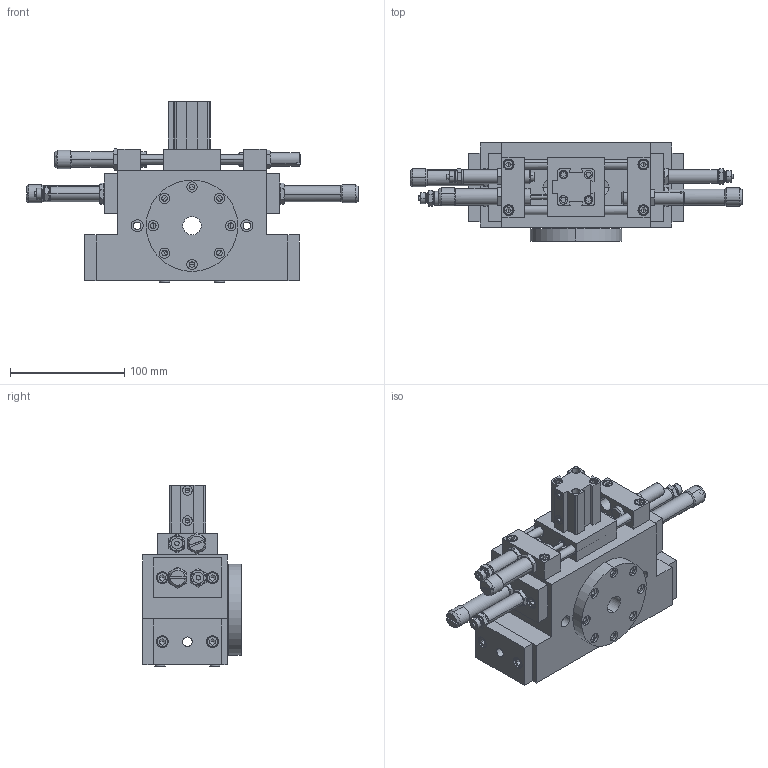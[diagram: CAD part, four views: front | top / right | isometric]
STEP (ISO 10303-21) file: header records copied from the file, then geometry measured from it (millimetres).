
FILE_DESCRIPTION((''),'2;1');
FILE_NAME('V:\CAD\Inventor-Stp\Drehantriebe\DA 32\2000040\2000040.stp','2006-03-15T08:56:55',('is'),(''),'Autodesk Inventor 8','Autodesk Inventor 8','');
FILE_SCHEMA(('AUTOMOTIVE_DESIGN { 1 0 10303 214 1 1 1 1 }'));
Length unit declared in the file: millimetre
Products named in the file (3): 2000040; 2000040-a; 2000040-b
Assembly tree (2 placements, depth 2):
  2000040
    2000040-a
    2000040-b
Bounding box: 290.6 x 86 x 158.9 mm (x, y, z)
Volume: 1055610.2 mm3; surface area: 230060.1 mm2
Topology: 2 solids, 76 shells, 3166 faces, 8474 edges, 5518 vertices
Faces by surface type: plane 1902, bspline 556, cylinder 340, cone 316, torus 52
Entity records: 108520 total; most frequent: CARTESIAN_POINT 32369, ORIENTED_EDGE 16772, DIRECTION 14484, EDGE_CURVE 8386, VERTEX_POINT 5518, VECTOR 5034, LINE 5034, AXIS2_PLACEMENT_3D 4725
